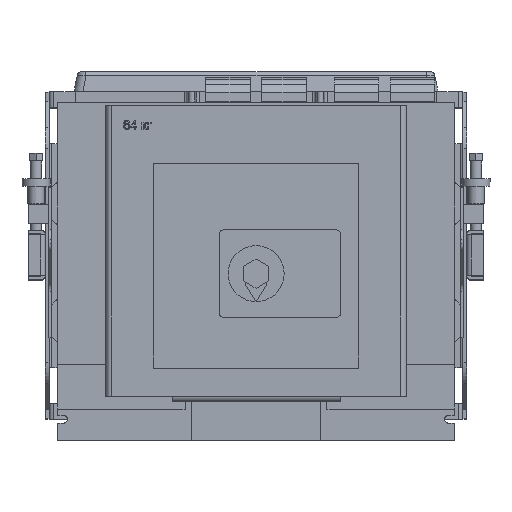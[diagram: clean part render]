
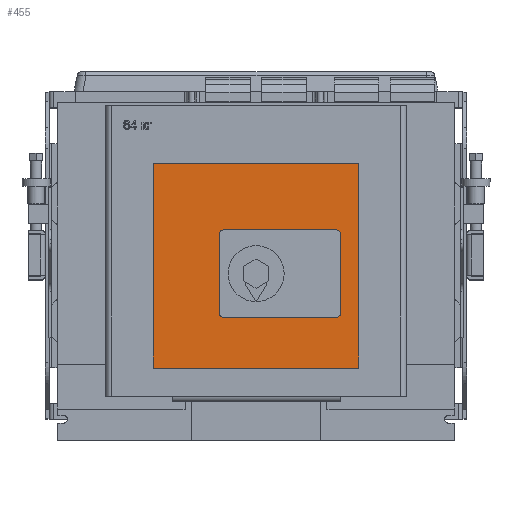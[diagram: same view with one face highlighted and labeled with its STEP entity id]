
A CAD part, top view. The second image highlights one B-rep face of the part: STEP entity #455.
In plain terms, the highlighted planar face has unit normal (0, 0, 1).
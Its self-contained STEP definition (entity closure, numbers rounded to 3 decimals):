
#137 = CIRCLE ( 'NONE', #4439, 5. ) ;
#352 = CARTESIAN_POINT ( 'NONE',  ( 322.6, 296., 266.8 ) ) ;
#455 = ADVANCED_FACE ( 'NONE', ( #27437, #36586 ), #37950, .T. ) ;
#487 = AXIS2_PLACEMENT_3D ( 'NONE', #10164, #31689, #13290 ) ;
#620 = CARTESIAN_POINT ( 'NONE',  ( 178.1, 136., 266.8 ) ) ;
#692 = CARTESIAN_POINT ( 'NONE',  ( 322.6, 296., 266.8 ) ) ;
#942 = DIRECTION ( 'NONE',  ( 1., 0., 0. ) ) ;
#1051 = CARTESIAN_POINT ( 'NONE',  ( 303.1, 136., 266.8 ) ) ;
#1078 = ORIENTED_EDGE ( 'NONE', *, *, #8465, .F. ) ;
#1664 = CIRCLE ( 'NONE', #487, 5. ) ;
#1691 = VECTOR ( 'NONE', #3496, 1000. ) ;
#2217 = CARTESIAN_POINT ( 'NONE',  ( 322.6, 77., 266.8 ) ) ;
#2266 = LINE ( 'NONE', #2217, #17814 ) ;
#2589 = DIRECTION ( 'NONE',  ( 0., -1., 0. ) ) ;
#2736 = EDGE_CURVE ( 'NONE', #4831, #11416, #15095, .T. ) ;
#3282 = EDGE_LOOP ( 'NONE', ( #22890, #1078, #6086, #30975, #36523, #5640, #19944, #25507 ) ) ;
#3496 = DIRECTION ( 'NONE',  ( -1., 0., 0. ) ) ;
#3619 = CARTESIAN_POINT ( 'NONE',  ( 178.1, 131., 266.8 ) ) ;
#3787 = DIRECTION ( 'NONE',  ( 1., 0., 0. ) ) ;
#4046 = VECTOR ( 'NONE', #15555, 1000. ) ;
#4439 = AXIS2_PLACEMENT_3D ( 'NONE', #36148, #17701, #39214 ) ;
#4831 = VERTEX_POINT ( 'NONE', #5941 ) ;
#5349 = DIRECTION ( 'NONE',  ( 1., 0., 0. ) ) ;
#5640 = ORIENTED_EDGE ( 'NONE', *, *, #19272, .F. ) ;
#5941 = CARTESIAN_POINT ( 'NONE',  ( 322.6, 77., 266.8 ) ) ;
#6086 = ORIENTED_EDGE ( 'NONE', *, *, #20770, .F. ) ;
#6144 = CARTESIAN_POINT ( 'NONE',  ( 303.1, 136., 266.8 ) ) ;
#6598 = VECTOR ( 'NONE', #2589, 1000. ) ;
#6818 = VECTOR ( 'NONE', #13841, 1000. ) ;
#7506 = EDGE_CURVE ( 'NONE', #37033, #12954, #15684, .T. ) ;
#8465 = EDGE_CURVE ( 'NONE', #25816, #12789, #29680, .T. ) ;
#8883 = ORIENTED_EDGE ( 'NONE', *, *, #34867, .T. ) ;
#9210 = CARTESIAN_POINT ( 'NONE',  ( 173.1, 220., 266.8 ) ) ;
#9273 = CARTESIAN_POINT ( 'NONE',  ( 298.1, 220., 266.8 ) ) ;
#9295 = AXIS2_PLACEMENT_3D ( 'NONE', #22496, #19538, #942 ) ;
#9907 = DIRECTION ( 'NONE',  ( 1., 0., 0. ) ) ;
#10164 = CARTESIAN_POINT ( 'NONE',  ( 298.1, 136., 266.8 ) ) ;
#10244 = CARTESIAN_POINT ( 'NONE',  ( 298.1, 131., 266.8 ) ) ;
#11416 = VERTEX_POINT ( 'NONE', #692 ) ;
#11552 = ORIENTED_EDGE ( 'NONE', *, *, #35621, .T. ) ;
#12000 = VERTEX_POINT ( 'NONE', #15473 ) ;
#12397 = DIRECTION ( 'NONE',  ( 1., 0., 0. ) ) ;
#12482 = CARTESIAN_POINT ( 'NONE',  ( 178.1, 225., 266.8 ) ) ;
#12789 = VERTEX_POINT ( 'NONE', #13234 ) ;
#12954 = VERTEX_POINT ( 'NONE', #32554 ) ;
#12989 = VERTEX_POINT ( 'NONE', #26537 ) ;
#13234 = CARTESIAN_POINT ( 'NONE',  ( 303.1, 220., 266.8 ) ) ;
#13290 = DIRECTION ( 'NONE',  ( 1., 0., 0. ) ) ;
#13293 = DIRECTION ( 'NONE',  ( 0., -1., 0. ) ) ;
#13841 = DIRECTION ( 'NONE',  ( 0., 1., 0. ) ) ;
#15095 = LINE ( 'NONE', #29163, #6818 ) ;
#15392 = EDGE_CURVE ( 'NONE', #12989, #4831, #2266, .T. ) ;
#15473 = CARTESIAN_POINT ( 'NONE',  ( 298.1, 225., 266.8 ) ) ;
#15555 = DIRECTION ( 'NONE',  ( 0., 1., 0. ) ) ;
#15684 = CIRCLE ( 'NONE', #36182, 5. ) ;
#16566 = EDGE_CURVE ( 'NONE', #12000, #30582, #39419, .T. ) ;
#17701 = DIRECTION ( 'NONE',  ( 0., 0., 1. ) ) ;
#17814 = VECTOR ( 'NONE', #5349, 1000. ) ;
#18265 = ORIENTED_EDGE ( 'NONE', *, *, #2736, .T. ) ;
#19061 = AXIS2_PLACEMENT_3D ( 'NONE', #9273, #30855, #12397 ) ;
#19272 = EDGE_CURVE ( 'NONE', #23683, #37033, #30531, .T. ) ;
#19538 = DIRECTION ( 'NONE',  ( 0., 0., 1. ) ) ;
#19944 = ORIENTED_EDGE ( 'NONE', *, *, #30930, .F. ) ;
#20307 = CARTESIAN_POINT ( 'NONE',  ( 173.1, 136., 266.8 ) ) ;
#20770 = EDGE_CURVE ( 'NONE', #35174, #25816, #1664, .T. ) ;
#22345 = DIRECTION ( 'NONE',  ( 0., 0., 1. ) ) ;
#22496 = CARTESIAN_POINT ( 'NONE',  ( 0., 0., 266.8 ) ) ;
#22890 = ORIENTED_EDGE ( 'NONE', *, *, #33214, .F. ) ;
#23048 = LINE ( 'NONE', #24288, #6598 ) ;
#23325 = CARTESIAN_POINT ( 'NONE',  ( 102.6, 296., 266.8 ) ) ;
#23683 = VERTEX_POINT ( 'NONE', #9210 ) ;
#24288 = CARTESIAN_POINT ( 'NONE',  ( 102.6, 77., 266.8 ) ) ;
#25507 = ORIENTED_EDGE ( 'NONE', *, *, #16566, .F. ) ;
#25513 = CARTESIAN_POINT ( 'NONE',  ( 298.1, 225., 266.8 ) ) ;
#25816 = VERTEX_POINT ( 'NONE', #1051 ) ;
#26423 = LINE ( 'NONE', #352, #1691 ) ;
#26537 = CARTESIAN_POINT ( 'NONE',  ( 102.6, 77., 266.8 ) ) ;
#27437 = FACE_BOUND ( 'NONE', #3282, .T. ) ;
#28616 = DIRECTION ( 'NONE',  ( -1., 0., 0. ) ) ;
#28820 = VERTEX_POINT ( 'NONE', #23325 ) ;
#29163 = CARTESIAN_POINT ( 'NONE',  ( 322.6, 77., 266.8 ) ) ;
#29571 = VECTOR ( 'NONE', #13293, 1000. ) ;
#29680 = LINE ( 'NONE', #6144, #4046 ) ;
#30531 = LINE ( 'NONE', #37881, #29571 ) ;
#30582 = VERTEX_POINT ( 'NONE', #12482 ) ;
#30855 = DIRECTION ( 'NONE',  ( 0., 0., 1. ) ) ;
#30930 = EDGE_CURVE ( 'NONE', #30582, #23683, #137, .T. ) ;
#30975 = ORIENTED_EDGE ( 'NONE', *, *, #32418, .F. ) ;
#31267 = VECTOR ( 'NONE', #28616, 1000. ) ;
#31689 = DIRECTION ( 'NONE',  ( 0., 0., 1. ) ) ;
#32418 = EDGE_CURVE ( 'NONE', #12954, #35174, #38660, .T. ) ;
#32554 = CARTESIAN_POINT ( 'NONE',  ( 178.1, 131., 266.8 ) ) ;
#33214 = EDGE_CURVE ( 'NONE', #12789, #12000, #38590, .T. ) ;
#33751 = EDGE_LOOP ( 'NONE', ( #18265, #11552, #8883, #38444 ) ) ;
#34867 = EDGE_CURVE ( 'NONE', #28820, #12989, #23048, .T. ) ;
#35174 = VERTEX_POINT ( 'NONE', #10244 ) ;
#35621 = EDGE_CURVE ( 'NONE', #11416, #28820, #26423, .T. ) ;
#36148 = CARTESIAN_POINT ( 'NONE',  ( 178.1, 220., 266.8 ) ) ;
#36182 = AXIS2_PLACEMENT_3D ( 'NONE', #620, #22345, #3787 ) ;
#36523 = ORIENTED_EDGE ( 'NONE', *, *, #7506, .F. ) ;
#36586 = FACE_OUTER_BOUND ( 'NONE', #33751, .T. ) ;
#36751 = VECTOR ( 'NONE', #9907, 1000. ) ;
#37033 = VERTEX_POINT ( 'NONE', #20307 ) ;
#37881 = CARTESIAN_POINT ( 'NONE',  ( 173.1, 220., 266.8 ) ) ;
#37950 = PLANE ( 'NONE',  #9295 ) ;
#38444 = ORIENTED_EDGE ( 'NONE', *, *, #15392, .T. ) ;
#38590 = CIRCLE ( 'NONE', #19061, 5. ) ;
#38660 = LINE ( 'NONE', #3619, #36751 ) ;
#39214 = DIRECTION ( 'NONE',  ( 1., 0., 0. ) ) ;
#39419 = LINE ( 'NONE', #25513, #31267 ) ;
